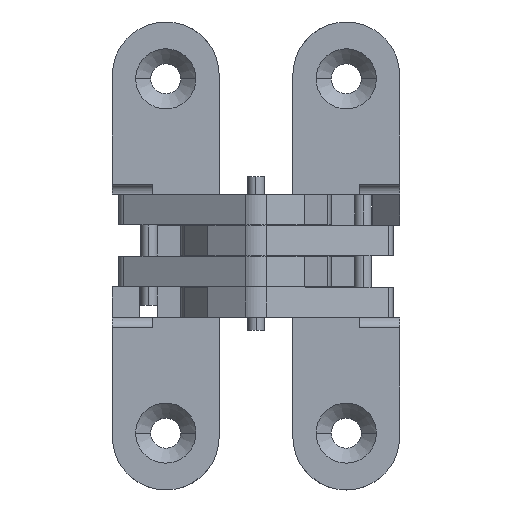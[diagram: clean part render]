
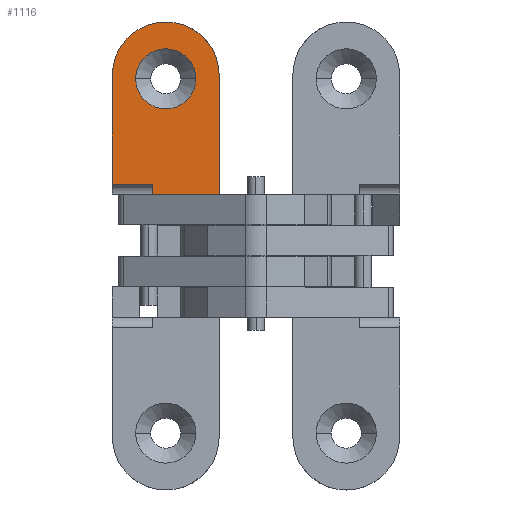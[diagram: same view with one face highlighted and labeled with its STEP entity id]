
A CAD part, top view. The second image highlights one B-rep face of the part: STEP entity #1116.
In plain terms, the highlighted planar face has unit normal (0, 0, 1).
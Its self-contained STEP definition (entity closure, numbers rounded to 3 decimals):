
#1 = EDGE_CURVE ( 'NONE', #2019, #2139, #3738, .T. ) ;
#4 = EDGE_CURVE ( 'NONE', #2037, #2034, #3732, .T. ) ;
#6 = EDGE_CURVE ( 'NONE', #2113, #2102, #3731, .T. ) ;
#9 = EDGE_CURVE ( 'NONE', #2130, #2029, #3724, .T. ) ;
#14 = EDGE_CURVE ( 'NONE', #2029, #2145, #3720, .T. ) ;
#17 = EDGE_CURVE ( 'NONE', #2102, #2019, #3721, .T. ) ;
#166 = EDGE_CURVE ( 'NONE', #2139, #2131, #3715, .T. ) ;
#175 = EDGE_CURVE ( 'NONE', #2145, #2113, #3697, .T. ) ;
#177 = EDGE_CURVE ( 'NONE', #2131, #2130, #3693, .T. ) ;
#247 = DIRECTION ( 'NONE',  ( 0., 0., -1. ) ) ;
#285 = PLANE ( 'NONE',  #3363 ) ;
#682 = EDGE_LOOP ( 'NONE', ( #2311, #2234 ) ) ;
#721 = EDGE_LOOP ( 'NONE', ( #2238, #2168, #2190, #2344, #2390, #2254, #2174, #2268 ) ) ;
#754 = DIRECTION ( 'NONE',  ( 0., -1., 0. ) ) ;
#758 = CARTESIAN_POINT ( 'NONE',  ( 8., -10.7, 0. ) ) ;
#761 = CARTESIAN_POINT ( 'NONE',  ( -8., -27., 0. ) ) ;
#764 = DIRECTION ( 'NONE',  ( -1., 0., 0. ) ) ;
#818 = CARTESIAN_POINT ( 'NONE',  ( -8., -4.6, 0. ) ) ;
#828 = DIRECTION ( 'NONE',  ( -1., 0., 0. ) ) ;
#1082 = CARTESIAN_POINT ( 'NONE',  ( 0., -27., 0. ) ) ;
#1086 = DIRECTION ( 'NONE',  ( -1., 0., 0. ) ) ;
#1116 = ADVANCED_FACE ( 'NONE', ( #2992, #2872 ), #285, .F. ) ;
#1197 = DIRECTION ( 'NONE',  ( -1., 0., 0. ) ) ;
#1198 = DIRECTION ( 'NONE',  ( 0., 0., -1. ) ) ;
#1207 = CARTESIAN_POINT ( 'NONE',  ( 0., -26.5, 0. ) ) ;
#1445 = CARTESIAN_POINT ( 'NONE',  ( 8., -10.7, 0. ) ) ;
#1451 = CARTESIAN_POINT ( 'NONE',  ( -7.1, -4.6, 0. ) ) ;
#1479 = CARTESIAN_POINT ( 'NONE',  ( -8., -4.6, 0. ) ) ;
#1480 = CARTESIAN_POINT ( 'NONE',  ( -8., -27., 0. ) ) ;
#1495 = CARTESIAN_POINT ( 'NONE',  ( 2., -10.7, 0. ) ) ;
#1512 = CARTESIAN_POINT ( 'NONE',  ( 2., -9.2, 0. ) ) ;
#1674 = CARTESIAN_POINT ( 'NONE',  ( 8., -27., 0. ) ) ;
#1680 = CARTESIAN_POINT ( 'NONE',  ( -7.1, -9.2, 0. ) ) ;
#1705 = CARTESIAN_POINT ( 'NONE',  ( 4.5, -26.5, 0. ) ) ;
#1709 = CARTESIAN_POINT ( 'NONE',  ( -4.5, -26.5, 0. ) ) ;
#1944 = DIRECTION ( 'NONE',  ( -1., 0., 0. ) ) ;
#1947 = CARTESIAN_POINT ( 'NONE',  ( -2.1, -9.2, 0. ) ) ;
#1950 = DIRECTION ( 'NONE',  ( 0., 1., 0. ) ) ;
#1975 = CARTESIAN_POINT ( 'NONE',  ( 8., -9.2, 0. ) ) ;
#1979 = DIRECTION ( 'NONE',  ( -1., 0., 0. ) ) ;
#1980 = DIRECTION ( 'NONE',  ( 0., 0., 1. ) ) ;
#1982 = CARTESIAN_POINT ( 'NONE',  ( 0., -27., 0. ) ) ;
#1988 = DIRECTION ( 'NONE',  ( 0., 1., 0. ) ) ;
#1993 = DIRECTION ( 'NONE',  ( -1., 0., 0. ) ) ;
#1994 = DIRECTION ( 'NONE',  ( 0., 0., -1. ) ) ;
#1995 = CARTESIAN_POINT ( 'NONE',  ( 0., -26.5, 0. ) ) ;
#1997 = CARTESIAN_POINT ( 'NONE',  ( 2., -27., 0. ) ) ;
#2019 = VERTEX_POINT ( 'NONE', #1680 ) ;
#2029 = VERTEX_POINT ( 'NONE', #1674 ) ;
#2034 = VERTEX_POINT ( 'NONE', #1705 ) ;
#2037 = VERTEX_POINT ( 'NONE', #1709 ) ;
#2102 = VERTEX_POINT ( 'NONE', #1512 ) ;
#2113 = VERTEX_POINT ( 'NONE', #1495 ) ;
#2130 = VERTEX_POINT ( 'NONE', #1480 ) ;
#2131 = VERTEX_POINT ( 'NONE', #1479 ) ;
#2139 = VERTEX_POINT ( 'NONE', #1451 ) ;
#2145 = VERTEX_POINT ( 'NONE', #1445 ) ;
#2157 = DIRECTION ( 'NONE',  ( 0., 1., 0. ) ) ;
#2158 = CARTESIAN_POINT ( 'NONE',  ( -7.1, -27., 0. ) ) ;
#2168 = ORIENTED_EDGE ( 'NONE', *, *, #1, .T. ) ;
#2174 = ORIENTED_EDGE ( 'NONE', *, *, #175, .T. ) ;
#2190 = ORIENTED_EDGE ( 'NONE', *, *, #166, .T. ) ;
#2234 = ORIENTED_EDGE ( 'NONE', *, *, #4, .T. ) ;
#2238 = ORIENTED_EDGE ( 'NONE', *, *, #17, .T. ) ;
#2254 = ORIENTED_EDGE ( 'NONE', *, *, #14, .T. ) ;
#2268 = ORIENTED_EDGE ( 'NONE', *, *, #6, .T. ) ;
#2311 = ORIENTED_EDGE ( 'NONE', *, *, #3920, .T. ) ;
#2344 = ORIENTED_EDGE ( 'NONE', *, *, #177, .T. ) ;
#2390 = ORIENTED_EDGE ( 'NONE', *, *, #9, .T. ) ;
#2631 = CIRCLE ( 'NONE', #3429, 4.5 ) ;
#2872 = FACE_OUTER_BOUND ( 'NONE', #721, .T. ) ;
#2992 = FACE_BOUND ( 'NONE', #682, .T. ) ;
#3276 = AXIS2_PLACEMENT_3D ( 'NONE', #1982, #1980, #1979 ) ;
#3277 = AXIS2_PLACEMENT_3D ( 'NONE', #1995, #1994, #1993 ) ;
#3363 = AXIS2_PLACEMENT_3D ( 'NONE', #1082, #247, #1086 ) ;
#3429 = AXIS2_PLACEMENT_3D ( 'NONE', #1207, #1198, #1197 ) ;
#3684 = VECTOR ( 'NONE', #754, 1000. ) ;
#3688 = VECTOR ( 'NONE', #764, 1000. ) ;
#3693 = LINE ( 'NONE', #761, #3684 ) ;
#3697 = LINE ( 'NONE', #758, #3688 ) ;
#3702 = VECTOR ( 'NONE', #828, 1000. ) ;
#3714 = VECTOR ( 'NONE', #1944, 1000. ) ;
#3715 = LINE ( 'NONE', #818, #3702 ) ;
#3720 = LINE ( 'NONE', #1975, #3727 ) ;
#3721 = LINE ( 'NONE', #1947, #3714 ) ;
#3724 = CIRCLE ( 'NONE', #3276, 8. ) ;
#3727 = VECTOR ( 'NONE', #1950, 1000. ) ;
#3731 = LINE ( 'NONE', #1997, #3744 ) ;
#3732 = CIRCLE ( 'NONE', #3277, 4.5 ) ;
#3738 = LINE ( 'NONE', #2158, #3740 ) ;
#3740 = VECTOR ( 'NONE', #2157, 1000. ) ;
#3744 = VECTOR ( 'NONE', #1988, 1000. ) ;
#3920 = EDGE_CURVE ( 'NONE', #2034, #2037, #2631, .T. ) ;
